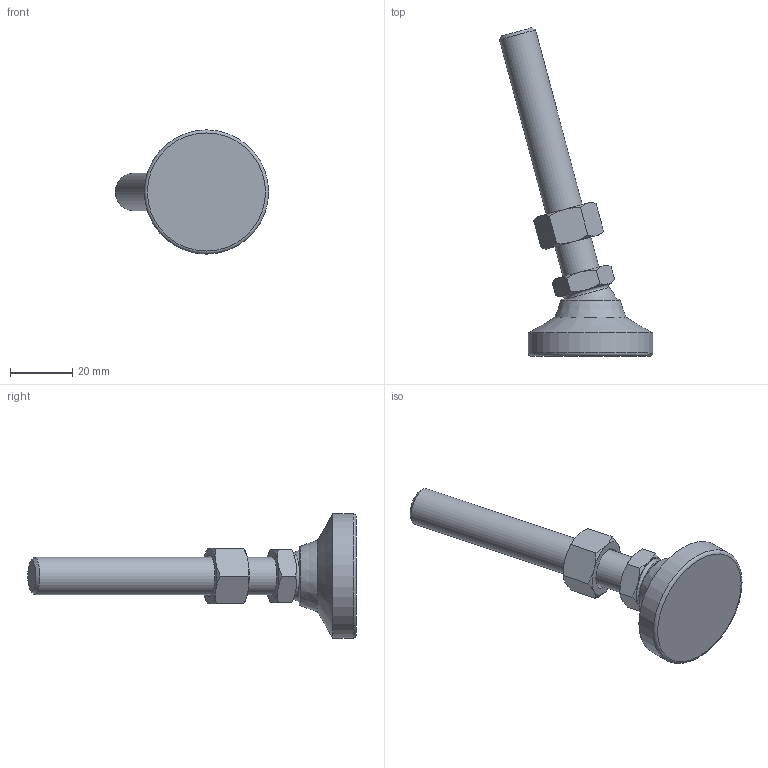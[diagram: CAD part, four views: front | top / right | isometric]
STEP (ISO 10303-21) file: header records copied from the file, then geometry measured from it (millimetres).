
FILE_DESCRIPTION( ( 'STEP AP214' ), ' ' );
FILE_NAME( 'O:/ganter_2015/teil_2/2_5/gn343_2/gn343_2_kr/Levelling foot with threaded stud GN 343.2-40-M12-80-KR-(15).stp', '2015-10-26T09:13:20', ( '' ), ( '' ), ' ', 'PARTsolutions', ' ' );
FILE_SCHEMA( ( 'AUTOMOTIVE_DESIGN { 1 0 10303 214 1 1 1 1 }' ) );
Length unit declared in the file: millimetre
Products named in the file (4): Levelling foot with threaded stud GN 343.2-40-M12-80-KR-(15); _Levelling foot with threaded stud GN 343.2-40-M12-80-KR-(15)_foot; _Levelling foot with threaded stud GN 343.2-40-M12-80-KR-(15)_screw; _Levelling foot with threaded stud GN 343.2-40-M12-80-KR-(15)_nut
Assembly tree (3 placements, depth 2):
  Levelling foot with threaded stud GN 343.2-40-M12-80-KR-(15)
    _Levelling foot with threaded stud GN 343.2-40-M12-80-KR-(15)_foot
    _Levelling foot with threaded stud GN 343.2-40-M12-80-KR-(15)_screw
    _Levelling foot with threaded stud GN 343.2-40-M12-80-KR-(15)_nut
Bounding box: 49.29 x 105.67 x 40 mm (x, y, z)
Volume: 28614.8 mm3; surface area: 9976.7 mm2
Topology: 3 solids, 3 shells, 56 faces, 117 edges, 68 vertices
Faces by surface type: cone 29, plane 19, torus 3, cylinder 3, sphere 2
Full cylindrical faces by diameter (mm): 10.106 x1, 12 x1, 40 x1
Entity records: 2066 total; most frequent: CARTESIAN_POINT 498, DIRECTION 212, ORIENTED_EDGE 200, AXIS2_PLACEMENT_3D 100, EDGE_CURVE 100, EDGE_LOOP 72, VERTEX_POINT 66, FACE_OUTER_BOUND 62
